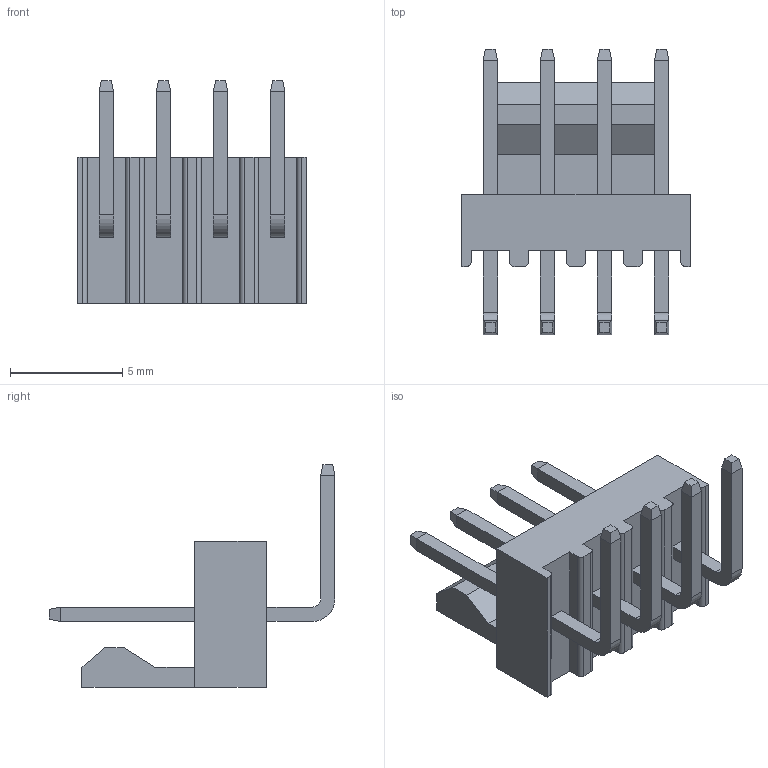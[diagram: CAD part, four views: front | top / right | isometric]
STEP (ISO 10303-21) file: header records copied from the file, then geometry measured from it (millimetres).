
FILE_DESCRIPTION((''),'2;1');
FILE_NAME('X9254WR-06-N0SN','2021-12-12T19:38:48',('Administrator'),(''),'CREO PARAMETRIC BY PTC INC, 2018050','CREO PARAMETRIC BY PTC INC, 2018050','');
FILE_SCHEMA(('CONFIG_CONTROL_DESIGN'));
Length unit declared in the file: millimetre
Products named in the file (1): X9254WR-06-N0SN
Bounding box: 10.16 x 12.71 x 9.9 mm (x, y, z)
Volume: 253.7 mm3; surface area: 517.1 mm2
Topology: 1 solids, 1 shells, 125 faces, 313 edges, 198 vertices
Faces by surface type: plane 109, cylinder 16
Entity records: 3681 total; most frequent: CARTESIAN_POINT 636, ORIENTED_EDGE 626, DIRECTION 595, EDGE_CURVE 313, VECTOR 281, LINE 281, VERTEX_POINT 198, AXIS2_PLACEMENT_3D 157
